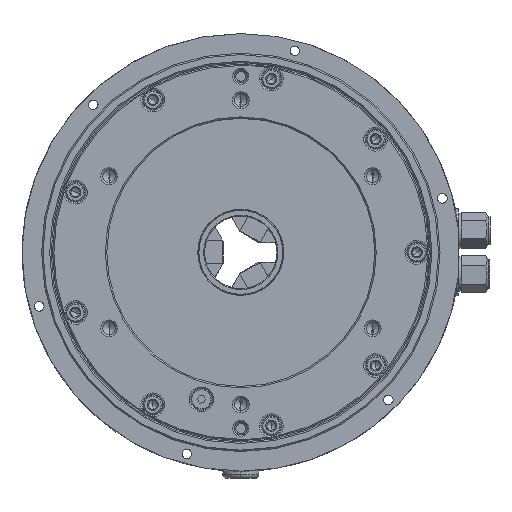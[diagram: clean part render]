
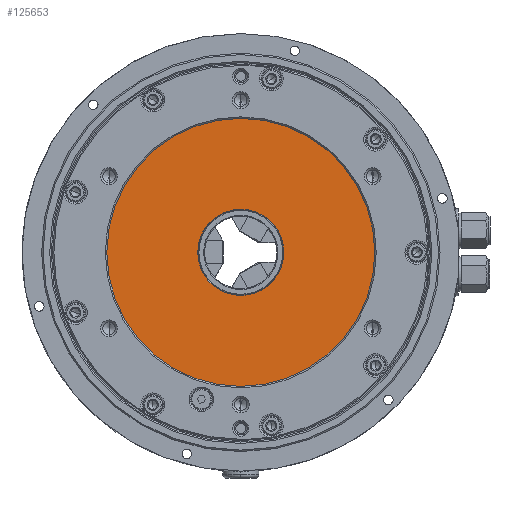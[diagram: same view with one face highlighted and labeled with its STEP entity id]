
A CAD part, left-side view. The second image highlights one B-rep face of the part: STEP entity #125653.
In plain terms, the highlighted planar face has unit normal (-1, 0, 0).
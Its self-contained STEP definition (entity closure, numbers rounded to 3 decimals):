
#2492 = CARTESIAN_POINT ( 'NONE',  ( -133., 0., 0. ) ) ;
#4198 = VERTEX_POINT ( 'NONE', #13352 ) ;
#7266 = DIRECTION ( 'NONE',  ( 0., 0., -1. ) ) ;
#7298 = ORIENTED_EDGE ( 'NONE', *, *, #121565, .T. ) ;
#7334 = DIRECTION ( 'NONE',  ( 1., 0., 0. ) ) ;
#13352 = CARTESIAN_POINT ( 'NONE',  ( -133., 0., 92.5 ) ) ;
#13484 = CARTESIAN_POINT ( 'NONE',  ( -133., 92.5, 0. ) ) ;
#19576 = DIRECTION ( 'NONE',  ( 1., 0., 0. ) ) ;
#20211 = VERTEX_POINT ( 'NONE', #77283 ) ;
#21469 = CIRCLE ( 'NONE', #41754, 29.7 ) ;
#22941 = DIRECTION ( 'NONE',  ( 1., 0., 0. ) ) ;
#25324 = AXIS2_PLACEMENT_3D ( 'NONE', #90079, #7334, #133142 ) ;
#37938 = EDGE_LOOP ( 'NONE', ( #7298, #55070 ) ) ;
#38735 = EDGE_LOOP ( 'NONE', ( #133595, #106695 ) ) ;
#40062 = DIRECTION ( 'NONE',  ( 0., 0., -1. ) ) ;
#40413 = DIRECTION ( 'NONE',  ( 1., 0., 0. ) ) ;
#41754 = AXIS2_PLACEMENT_3D ( 'NONE', #50648, #19576, #40062 ) ;
#45922 = DIRECTION ( 'NONE',  ( -1., 0., 0. ) ) ;
#49527 = AXIS2_PLACEMENT_3D ( 'NONE', #2492, #22941, #66011 ) ;
#50648 = CARTESIAN_POINT ( 'NONE',  ( -133., 0., 0. ) ) ;
#55070 = ORIENTED_EDGE ( 'NONE', *, *, #137983, .T. ) ;
#66011 = DIRECTION ( 'NONE',  ( 0., 0., -1. ) ) ;
#67034 = CARTESIAN_POINT ( 'NONE',  ( -133., 0., 29.7 ) ) ;
#67089 = PLANE ( 'NONE',  #79454 ) ;
#77283 = CARTESIAN_POINT ( 'NONE',  ( -133., 0., -29.7 ) ) ;
#79454 = AXIS2_PLACEMENT_3D ( 'NONE', #13484, #45922, #88954 ) ;
#81316 = EDGE_CURVE ( 'NONE', #116743, #4198, #130286, .T. ) ;
#84949 = AXIS2_PLACEMENT_3D ( 'NONE', #114475, #40413, #7266 ) ;
#85952 = VERTEX_POINT ( 'NONE', #67034 ) ;
#87819 = CIRCLE ( 'NONE', #49527, 29.7 ) ;
#88954 = DIRECTION ( 'NONE',  ( 0., 0., 1. ) ) ;
#90079 = CARTESIAN_POINT ( 'NONE',  ( -133., 0., 0. ) ) ;
#91449 = CARTESIAN_POINT ( 'NONE',  ( -133., 0., -92.5 ) ) ;
#102115 = EDGE_CURVE ( 'NONE', #4198, #116743, #115515, .T. ) ;
#106695 = ORIENTED_EDGE ( 'NONE', *, *, #102115, .F. ) ;
#114475 = CARTESIAN_POINT ( 'NONE',  ( -133., 0., 0. ) ) ;
#115515 = CIRCLE ( 'NONE', #25324, 92.5 ) ;
#116743 = VERTEX_POINT ( 'NONE', #91449 ) ;
#120721 = FACE_OUTER_BOUND ( 'NONE', #38735, .T. ) ;
#121565 = EDGE_CURVE ( 'NONE', #20211, #85952, #87819, .T. ) ;
#125653 = ADVANCED_FACE ( 'NONE', ( #134794, #120721 ), #67089, .T. ) ;
#130286 = CIRCLE ( 'NONE', #84949, 92.5 ) ;
#133142 = DIRECTION ( 'NONE',  ( 0., 0., -1. ) ) ;
#133595 = ORIENTED_EDGE ( 'NONE', *, *, #81316, .F. ) ;
#134794 = FACE_BOUND ( 'NONE', #37938, .T. ) ;
#137983 = EDGE_CURVE ( 'NONE', #85952, #20211, #21469, .T. ) ;
